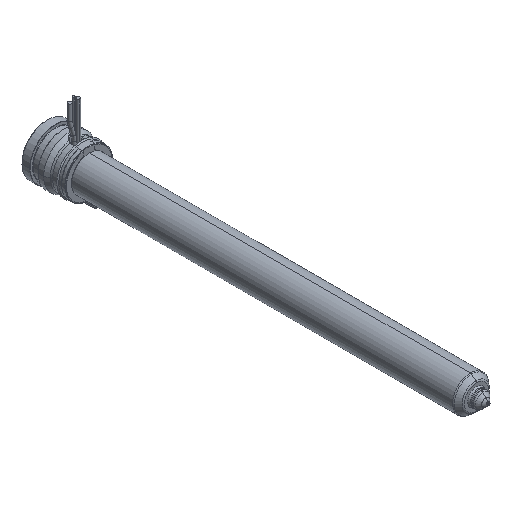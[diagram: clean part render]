
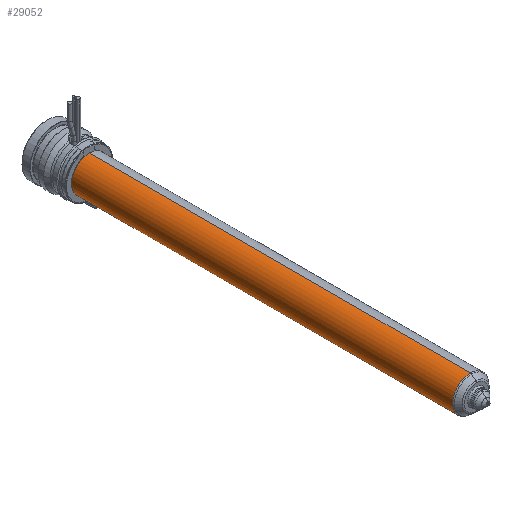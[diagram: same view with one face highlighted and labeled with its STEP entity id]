
A CAD part, isometric view. The second image highlights one B-rep face of the part: STEP entity #29052.
In plain terms, the highlighted cylindrical face has radius 9 mm (diameter 18 mm), a partial arc.
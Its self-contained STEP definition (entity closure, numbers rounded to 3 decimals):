
#28443=CARTESIAN_POINT('',(0.,-215.836,0.));
#28444=DIRECTION('',(0.,-1.,0.));
#28445=DIRECTION('',(0.,0.,1.));
#28446=AXIS2_PLACEMENT_3D('',#28443,#28444,#28445);
#28451=CARTESIAN_POINT('',(0.,-22.,0.));
#28452=DIRECTION('',(0.,-1.,0.));
#28453=DIRECTION('',(0.,0.,1.));
#28454=AXIS2_PLACEMENT_3D('',#28451,#28452,#28453);
#28459=DIRECTION('',(0.,-1.,0.));
#28460=VECTOR('',#28459,193.836);
#28461=CARTESIAN_POINT('',(0.,-22.,9.));
#28462=LINE('',#28461,#28460);
#28474=DIRECTION('',(0.,-1.,0.));
#28475=VECTOR('',#28474,193.836);
#28476=CARTESIAN_POINT('',(0.,-22.,-9.));
#28477=LINE('',#28476,#28475);
#28669=CARTESIAN_POINT('',(0.,-22.,9.));
#28670=CARTESIAN_POINT('',(0.,-215.836,9.));
#28671=VERTEX_POINT('',#28669);
#28672=VERTEX_POINT('',#28670);
#28695=CARTESIAN_POINT('',(0.,-22.,-9.));
#28696=CARTESIAN_POINT('',(0.,-215.836,-9.));
#28697=VERTEX_POINT('',#28695);
#28698=VERTEX_POINT('',#28696);
#29038=CARTESIAN_POINT('',(0.,-7.625,0.));
#29039=DIRECTION('',(0.,-1.,0.));
#29040=DIRECTION('',(0.,0.,1.));
#29041=AXIS2_PLACEMENT_3D('',#29038,#29039,#29040);
#29042=CYLINDRICAL_SURFACE('',#29041,9.);
#29044=ORIENTED_EDGE('',*,*,#29043,.T.);
#29045=ORIENTED_EDGE('',*,*,#29033,.T.);
#29047=ORIENTED_EDGE('',*,*,#29046,.F.);
#29049=ORIENTED_EDGE('',*,*,#29048,.F.);
#29050=EDGE_LOOP('',(#29044,#29045,#29047,#29049));
#29051=FACE_OUTER_BOUND('',#29050,.F.);
#29052=ADVANCED_FACE('',(#29051),#29042,.T.);
#28447=CIRCLE('',#28446,9.);
#28455=CIRCLE('',#28454,9.);
#29033=EDGE_CURVE('',#28672,#28698,#28447,.T.);
#29043=EDGE_CURVE('',#28671,#28672,#28462,.T.);
#29046=EDGE_CURVE('',#28697,#28698,#28477,.T.);
#29048=EDGE_CURVE('',#28671,#28697,#28455,.T.);
